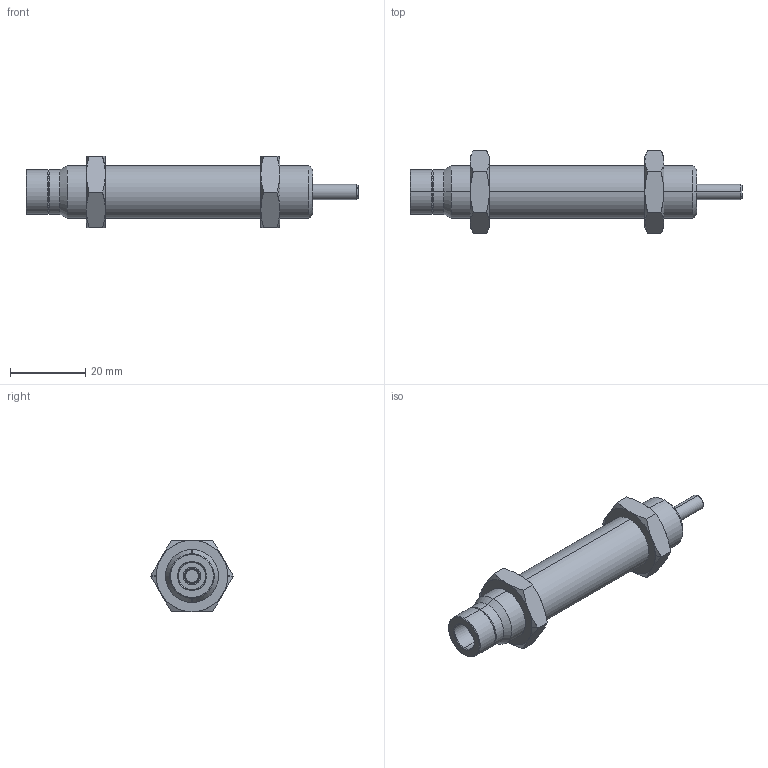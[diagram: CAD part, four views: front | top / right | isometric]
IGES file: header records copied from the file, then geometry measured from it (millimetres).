
Start section: SolidWorks IGES file using analytic representation for surfaces
Global section: file name: D:\IGS跡宒\AC1412-N(P1.0).IGS,1; native system: 5HSolidWorks 2013; preprocessor: SolidWorks 2013; author: Administrator; date: 160412.105704; units: inch
Bounding box: 88 x 21.94 x 19 mm (x, y, z)
Surface area: 5664.7 mm2 (no closed solid volume)
Topology: 0 solids, 0 shells, 73 faces, 1240 edges, 1240 vertices
Faces by surface type: revolution 50, bspline 23
